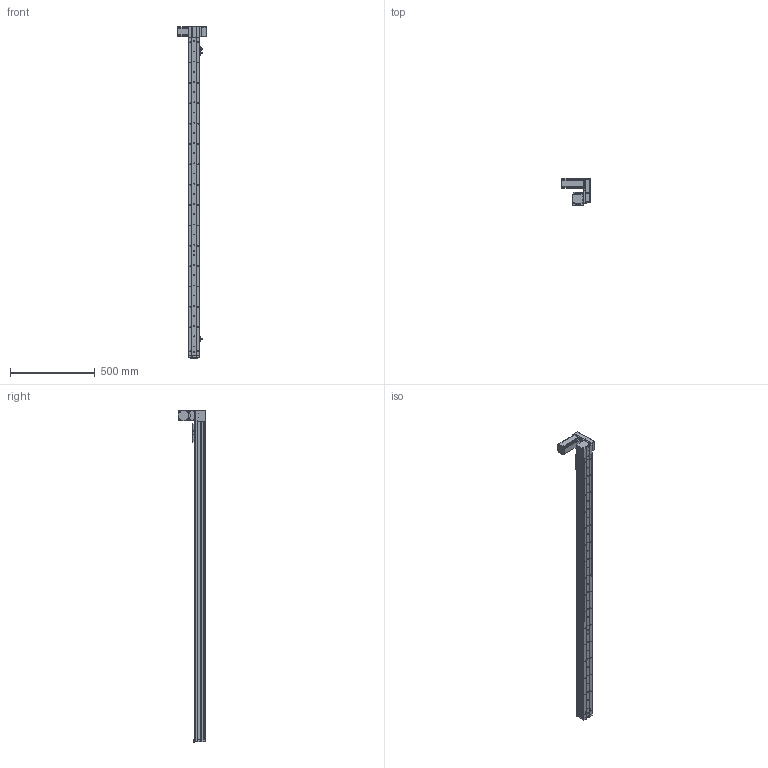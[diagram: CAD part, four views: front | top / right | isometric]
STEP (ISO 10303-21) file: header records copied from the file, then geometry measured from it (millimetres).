
FILE_DESCRIPTION (( 'STEP AP214' ), '1' );
FILE_NAME ('KSD68BS-S1700-MLU-CR.STEP', '2019-08-27T08:51:27', ( '微软用户' ), ( '微软中国' ), 'SwSTEP 2.0', 'SolidWorks 2014', '' );
FILE_SCHEMA (( 'AUTOMOTIVE_DESIGN' ));
Length unit declared in the file: millimetre
Products named in the file (14): 68单导轨全封闭同步带电机座左; 68单导轨全封闭同步带安装板; 悵誘欶奻狟殏; 68宽马达安装板连板上折同步带; 感应片68宽全封闭; U倰嫖萇EEㄜSX672; 台达ECMA－C20604AS伺服电机（400W); KSD68BS 1700行程底板全封闭; KSD68BS-S1700-MLU-CR; 68遵裔啣揤啣1; KSD68BS 1700行程盖板全封闭; 68宽单导轨全封闭丝杆传动安装板1防护罩; KSD68BS 1700行程侧板全封闭; 68宽单导轨全封闭同步带端板
Assembly tree (17 placements, depth 2):
  KSD68BS-S1700-MLU-CR
    KSD68BS 1700行程底板全封闭
    台达ECMA－C20604AS伺服电机（400W)
    U倰嫖萇EEㄜSX672  x3
    感应片68宽全封闭
    68宽马达安装板连板上折同步带
    悵誘欶奻狟殏
    68单导轨全封闭同步带安装板
    68单导轨全封闭同步带电机座左
    68宽单导轨全封闭同步带端板
    KSD68BS 1700行程侧板全封闭  x2
    68宽单导轨全封闭丝杆传动安装板1防护罩
    68遵裔啣揤啣1  x2
    KSD68BS 1700行程盖板全封闭
Bounding box: 167.2 x 159.5 x 1958.1 mm (x, y, z)
Volume: 3479533.9 mm3; surface area: 1416846.1 mm2
Topology: 18 solids, 18 shells, 1621 faces, 4675 edges, 2978 vertices
Faces by surface type: cylinder 800, plane 629, cone 192
Entity records: 53119 total; most frequent: CARTESIAN_POINT 9281, DIRECTION 7894, ORIENTED_EDGE 7554, EDGE_CURVE 3777, AXIS2_PLACEMENT_3D 2883, VERTEX_POINT 2476, LINE 2128, VECTOR 2128
